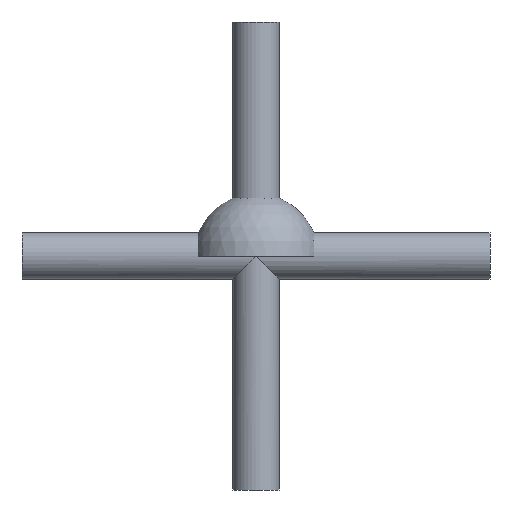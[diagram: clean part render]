
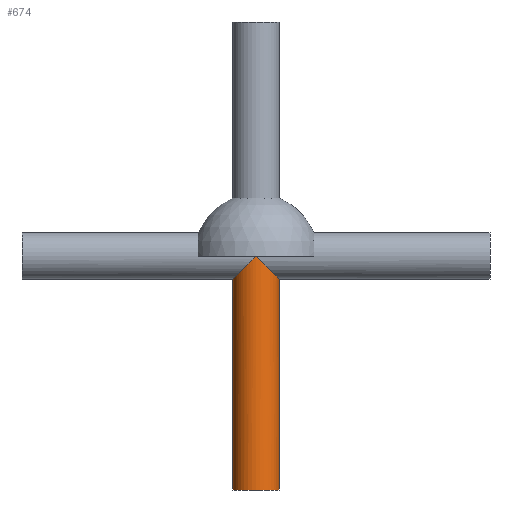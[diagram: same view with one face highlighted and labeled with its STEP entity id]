
A CAD part, left-side view. The second image highlights one B-rep face of the part: STEP entity #674.
In plain terms, the highlighted cylindrical face has radius 1.5 mm (diameter 3 mm), a full revolution.
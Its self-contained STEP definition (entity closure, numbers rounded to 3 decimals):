
#191 = CYLINDRICAL_SURFACE('',#192,1.5);
#192 = AXIS2_PLACEMENT_3D('',#193,#194,#195);
#193 = CARTESIAN_POINT('',(407.5,-15.,0.));
#194 = DIRECTION('',(0.,1.,0.));
#195 = DIRECTION('',(0.,-0.,1.));
#295 = CYLINDRICAL_SURFACE('',#296,1.5);
#296 = AXIS2_PLACEMENT_3D('',#297,#298,#299);
#297 = CARTESIAN_POINT('',(407.5,-15.,0.));
#298 = DIRECTION('',(0.,1.,0.));
#299 = DIRECTION('',(0.,-0.,1.));
#375 = VERTEX_POINT('',#376);
#376 = CARTESIAN_POINT('',(409.,0.,0.));
#421 = EDGE_CURVE('',#422,#375,#424,.T.);
#422 = VERTEX_POINT('',#423);
#423 = CARTESIAN_POINT('',(406.,0.,0.)
  );
#424 = SURFACE_CURVE('',#425,(#430,#448),.PCURVE_S1.);
#425 = ELLIPSE('',#426,2.121,1.5);
#426 = AXIS2_PLACEMENT_3D('',#427,#428,#429);
#427 = CARTESIAN_POINT('',(407.5,0.,0.));
#428 = DIRECTION('',(0.,-0.707,0.707));
#429 = DIRECTION('',(0.,0.707,0.707));
#430 = PCURVE('',#295,#431);
#431 = DEFINITIONAL_REPRESENTATION('',(#432),#447);
#432 = B_SPLINE_CURVE_WITH_KNOTS('',7,(#433,#434,#435,#436,#437,#438,
    #439,#440,#441,#442,#443,#444,#445,#446),.UNSPECIFIED.,.F.,.F.,(8,6,
    8),(1.571,3.142,4.712),.UNSPECIFIED.);
#433 = CARTESIAN_POINT('',(4.712,15.));
#434 = CARTESIAN_POINT('',(4.488,14.663));
#435 = CARTESIAN_POINT('',(4.264,14.327));
#436 = CARTESIAN_POINT('',(4.039,14.018));
#437 = CARTESIAN_POINT('',(3.815,13.764));
#438 = CARTESIAN_POINT('',(3.59,13.588));
#439 = CARTESIAN_POINT('',(3.366,13.5));
#440 = CARTESIAN_POINT('',(2.917,13.5));
#441 = CARTESIAN_POINT('',(2.693,13.588));
#442 = CARTESIAN_POINT('',(2.468,13.764));
#443 = CARTESIAN_POINT('',(2.244,14.018));
#444 = CARTESIAN_POINT('',(2.02,14.327));
#445 = CARTESIAN_POINT('',(1.795,14.663));
#446 = CARTESIAN_POINT('',(1.571,15.));
#447 = ( GEOMETRIC_REPRESENTATION_CONTEXT(2) 
PARAMETRIC_REPRESENTATION_CONTEXT() REPRESENTATION_CONTEXT('2D SPACE',''
  ) );
#448 = PCURVE('',#449,#454);
#449 = CYLINDRICAL_SURFACE('',#450,1.5);
#450 = AXIS2_PLACEMENT_3D('',#451,#452,#453);
#451 = CARTESIAN_POINT('',(407.5,0.,-15.));
#452 = DIRECTION('',(0.,0.,1.));
#453 = DIRECTION('',(1.,0.,-0.));
#454 = DEFINITIONAL_REPRESENTATION('',(#455),#470);
#455 = B_SPLINE_CURVE_WITH_KNOTS('',7,(#456,#457,#458,#459,#460,#461,
    #462,#463,#464,#465,#466,#467,#468,#469),.UNSPECIFIED.,.F.,.F.,(8,6,
    8),(1.571,3.142,4.712),.UNSPECIFIED.);
#456 = CARTESIAN_POINT('',(3.142,15.));
#457 = CARTESIAN_POINT('',(3.366,14.663));
#458 = CARTESIAN_POINT('',(3.59,14.327));
#459 = CARTESIAN_POINT('',(3.815,14.018));
#460 = CARTESIAN_POINT('',(4.039,13.764));
#461 = CARTESIAN_POINT('',(4.264,13.588));
#462 = CARTESIAN_POINT('',(4.488,13.5));
#463 = CARTESIAN_POINT('',(4.937,13.5));
#464 = CARTESIAN_POINT('',(5.161,13.588));
#465 = CARTESIAN_POINT('',(5.386,13.764));
#466 = CARTESIAN_POINT('',(5.61,14.018));
#467 = CARTESIAN_POINT('',(5.834,14.327));
#468 = CARTESIAN_POINT('',(6.059,14.663));
#469 = CARTESIAN_POINT('',(6.283,15.));
#470 = ( GEOMETRIC_REPRESENTATION_CONTEXT(2) 
PARAMETRIC_REPRESENTATION_CONTEXT() REPRESENTATION_CONTEXT('2D SPACE',''
  ) );
#630 = EDGE_CURVE('',#375,#422,#631,.T.);
#631 = SURFACE_CURVE('',#632,(#637,#655),.PCURVE_S1.);
#632 = ELLIPSE('',#633,2.121,1.5);
#633 = AXIS2_PLACEMENT_3D('',#634,#635,#636);
#634 = CARTESIAN_POINT('',(407.5,0.,0.));
#635 = DIRECTION('',(0.,0.707,0.707));
#636 = DIRECTION('',(0.,-0.707,0.707));
#637 = PCURVE('',#191,#638);
#638 = DEFINITIONAL_REPRESENTATION('',(#639),#654);
#639 = B_SPLINE_CURVE_WITH_KNOTS('',7,(#640,#641,#642,#643,#644,#645,
    #646,#647,#648,#649,#650,#651,#652,#653),.UNSPECIFIED.,.F.,.F.,(8,6,
    8),(1.571,3.142,4.712),.UNSPECIFIED.);
#640 = CARTESIAN_POINT('',(1.571,15.));
#641 = CARTESIAN_POINT('',(1.795,15.337));
#642 = CARTESIAN_POINT('',(2.02,15.673));
#643 = CARTESIAN_POINT('',(2.244,15.982));
#644 = CARTESIAN_POINT('',(2.468,16.236));
#645 = CARTESIAN_POINT('',(2.693,16.412));
#646 = CARTESIAN_POINT('',(2.917,16.5));
#647 = CARTESIAN_POINT('',(3.366,16.5));
#648 = CARTESIAN_POINT('',(3.59,16.412));
#649 = CARTESIAN_POINT('',(3.815,16.236));
#650 = CARTESIAN_POINT('',(4.039,15.982));
#651 = CARTESIAN_POINT('',(4.264,15.673));
#652 = CARTESIAN_POINT('',(4.488,15.337));
#653 = CARTESIAN_POINT('',(4.712,15.));
#654 = ( GEOMETRIC_REPRESENTATION_CONTEXT(2) 
PARAMETRIC_REPRESENTATION_CONTEXT() REPRESENTATION_CONTEXT('2D SPACE',''
  ) );
#655 = PCURVE('',#449,#656);
#656 = DEFINITIONAL_REPRESENTATION('',(#657),#672);
#657 = B_SPLINE_CURVE_WITH_KNOTS('',7,(#658,#659,#660,#661,#662,#663,
    #664,#665,#666,#667,#668,#669,#670,#671),.UNSPECIFIED.,.F.,.F.,(8,6,
    8),(1.571,3.142,4.712),.UNSPECIFIED.);
#658 = CARTESIAN_POINT('',(0.,15.));
#659 = CARTESIAN_POINT('',(0.224,14.663));
#660 = CARTESIAN_POINT('',(0.449,14.327));
#661 = CARTESIAN_POINT('',(0.673,14.018));
#662 = CARTESIAN_POINT('',(0.898,13.764));
#663 = CARTESIAN_POINT('',(1.122,13.588));
#664 = CARTESIAN_POINT('',(1.346,13.5));
#665 = CARTESIAN_POINT('',(1.795,13.5));
#666 = CARTESIAN_POINT('',(2.02,13.588));
#667 = CARTESIAN_POINT('',(2.244,13.764));
#668 = CARTESIAN_POINT('',(2.468,14.018));
#669 = CARTESIAN_POINT('',(2.693,14.327));
#670 = CARTESIAN_POINT('',(2.917,14.663));
#671 = CARTESIAN_POINT('',(3.142,15.));
#672 = ( GEOMETRIC_REPRESENTATION_CONTEXT(2) 
PARAMETRIC_REPRESENTATION_CONTEXT() REPRESENTATION_CONTEXT('2D SPACE',''
  ) );
#674 = ADVANCED_FACE('',(#675),#449,.T.);
#675 = FACE_BOUND('',#676,.T.);
#676 = EDGE_LOOP('',(#677,#678,#701,#728,#729));
#677 = ORIENTED_EDGE('',*,*,#630,.F.);
#678 = ORIENTED_EDGE('',*,*,#679,.F.);
#679 = EDGE_CURVE('',#680,#375,#682,.T.);
#680 = VERTEX_POINT('',#681);
#681 = CARTESIAN_POINT('',(409.,0.,-15.));
#682 = SEAM_CURVE('',#683,(#687,#694),.PCURVE_S1.);
#683 = LINE('',#684,#685);
#684 = CARTESIAN_POINT('',(409.,0.,-15.));
#685 = VECTOR('',#686,1.);
#686 = DIRECTION('',(0.,0.,1.));
#687 = PCURVE('',#449,#688);
#688 = DEFINITIONAL_REPRESENTATION('',(#689),#693);
#689 = LINE('',#690,#691);
#690 = CARTESIAN_POINT('',(6.283,-0.));
#691 = VECTOR('',#692,1.);
#692 = DIRECTION('',(0.,1.));
#693 = ( GEOMETRIC_REPRESENTATION_CONTEXT(2) 
PARAMETRIC_REPRESENTATION_CONTEXT() REPRESENTATION_CONTEXT('2D SPACE',''
  ) );
#694 = PCURVE('',#449,#695);
#695 = DEFINITIONAL_REPRESENTATION('',(#696),#700);
#696 = LINE('',#697,#698);
#697 = CARTESIAN_POINT('',(0.,-0.));
#698 = VECTOR('',#699,1.);
#699 = DIRECTION('',(0.,1.));
#700 = ( GEOMETRIC_REPRESENTATION_CONTEXT(2) 
PARAMETRIC_REPRESENTATION_CONTEXT() REPRESENTATION_CONTEXT('2D SPACE',''
  ) );
#701 = ORIENTED_EDGE('',*,*,#702,.T.);
#702 = EDGE_CURVE('',#680,#680,#703,.T.);
#703 = SURFACE_CURVE('',#704,(#709,#716),.PCURVE_S1.);
#704 = CIRCLE('',#705,1.5);
#705 = AXIS2_PLACEMENT_3D('',#706,#707,#708);
#706 = CARTESIAN_POINT('',(407.5,0.,-15.));
#707 = DIRECTION('',(0.,0.,1.));
#708 = DIRECTION('',(1.,0.,-0.));
#709 = PCURVE('',#449,#710);
#710 = DEFINITIONAL_REPRESENTATION('',(#711),#715);
#711 = LINE('',#712,#713);
#712 = CARTESIAN_POINT('',(0.,0.));
#713 = VECTOR('',#714,1.);
#714 = DIRECTION('',(1.,0.));
#715 = ( GEOMETRIC_REPRESENTATION_CONTEXT(2) 
PARAMETRIC_REPRESENTATION_CONTEXT() REPRESENTATION_CONTEXT('2D SPACE',''
  ) );
#716 = PCURVE('',#717,#722);
#717 = PLANE('',#718);
#718 = AXIS2_PLACEMENT_3D('',#719,#720,#721);
#719 = CARTESIAN_POINT('',(407.5,0.,-15.));
#720 = DIRECTION('',(0.,0.,1.));
#721 = DIRECTION('',(1.,0.,-0.));
#722 = DEFINITIONAL_REPRESENTATION('',(#723),#727);
#723 = CIRCLE('',#724,1.5);
#724 = AXIS2_PLACEMENT_2D('',#725,#726);
#725 = CARTESIAN_POINT('',(0.,0.));
#726 = DIRECTION('',(1.,0.));
#727 = ( GEOMETRIC_REPRESENTATION_CONTEXT(2) 
PARAMETRIC_REPRESENTATION_CONTEXT() REPRESENTATION_CONTEXT('2D SPACE',''
  ) );
#728 = ORIENTED_EDGE('',*,*,#679,.T.);
#729 = ORIENTED_EDGE('',*,*,#421,.F.);
